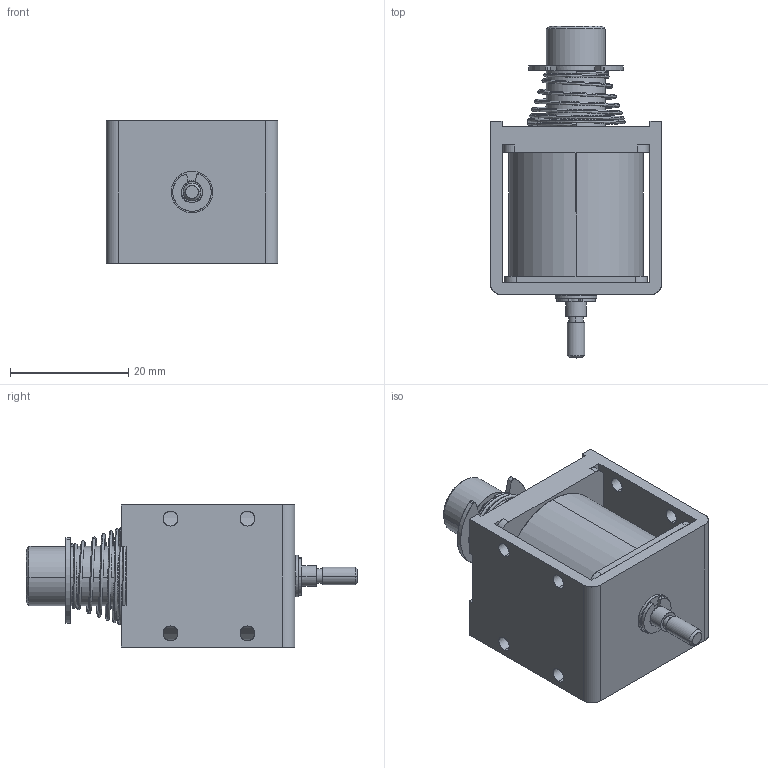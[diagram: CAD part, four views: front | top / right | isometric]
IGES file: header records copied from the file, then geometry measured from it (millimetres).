
Start section: SolidWorks IGES file using analytic representation for surfaces
Global section: file name: L:\カタログ\web用3Dデータ\CBS1029\3D_CBS1029\w_cbs1029.IGS; native system: SolidWorks 2014; preprocessor: SolidWorks 2014; author: jiba; date: 140725.111943; units: millimetre
Bounding box: 29 x 56.1 x 24.1 mm (x, y, z)
Surface area: 10291.6 mm2 (no closed solid volume)
Topology: 0 solids, 0 shells, 174 faces, 2860 edges, 2860 vertices
Faces by surface type: revolution 101, bspline 73
